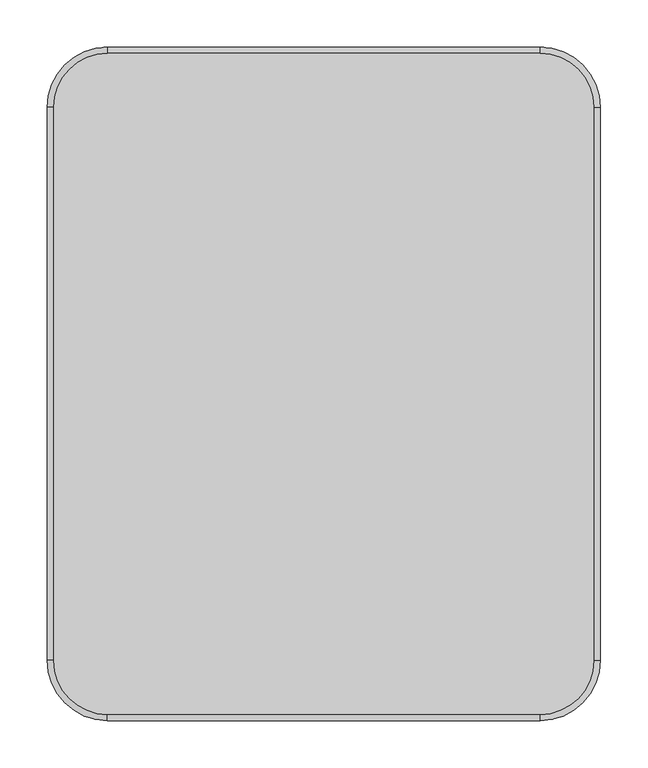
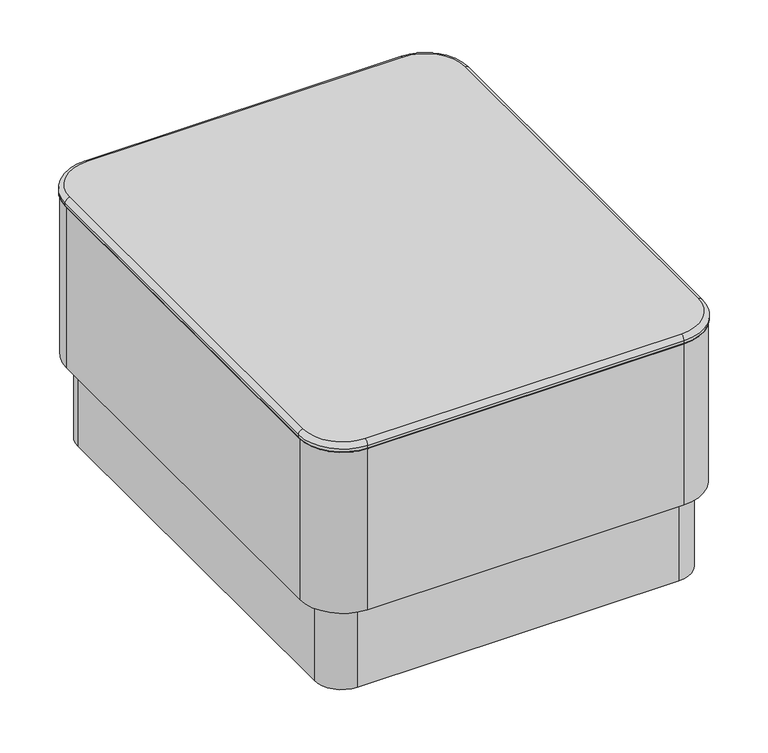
"""IFC4 building model written with IfcOpenShell, lengths in millimetres: furniture geometry, Stance_HC-Rosetta-Rectangular_Table : RM-RT-BHP."""

from ifc_helpers import new_model, si_unit, point, frame, frame_2d, origin, origin_with_axes, place, context, project, spatial, polyline, circle_curve, ellipse_curve, trimmed, segment, composite_curve, outline, extrude, source, transform, mapped, element, save
from ifc_brep_helpers import plane_surface, cylinder_surface, revolved_surface, advanced_brep


def furniture_a6251de5(model_context):
    return source(origin(), model_context, "Body", "SolidModel", [
        advanced_brep(
        [(584.2, -63.5, 387.35), (520.7, 0.0, 387.35), (520.7, -6.35, 393.7), (577.85, -63.5, 393.7), (584.2, -63.5, 383.2974494), (520.7, 0.0, 383.2974494), (582.6125, -63.5, 381.7099494), (520.7, -1.5875, 381.7099494), (577.85, -647.6999758, 393.7), (584.2, -647.6999758, 387.35), (584.2, -647.6999758, 383.2974494), (582.6125, -647.6999758, 381.7099494), (520.7, -704.8499758, 393.7), (520.7, -711.1999758, 387.35), (520.7, -711.1999758, 383.2974494), (520.7, -709.6124758, 381.7099494), (63.5, -704.8499758, 393.7), (63.5, -711.1999758, 387.35), (63.5, -711.1999758, 383.2974494), (63.5, -709.6124758, 381.7099494), (6.35, -647.6999758, 393.7), (0.0, -647.6999758, 387.35), (0.0, -647.6999758, 383.2974494), (1.5875, -647.6999758, 381.7099494), (6.35, -63.5, 393.7), (0.0, -63.5, 387.35), (0.0, -63.5, 383.2974494), (1.5875, -63.5, 381.7099494), (63.5, -6.35, 393.7), (63.5, 0.0, 387.35), (63.5, 0.0, 383.2974494), (63.5, -1.5875, 381.7099494)],
        [
            (0, 1, circle_curve(frame((520.7, -63.5, 387.35), z_axis=(0.0, 0.0, 1.0), x_axis=(0.0, 1.0, 0.0)), 63.5)),
            (1, 2, circle_curve(frame((520.7, -6.35, 387.35), z_axis=(1.0, 0.0, 0.0), x_axis=(0.0, 1.0, 0.0)), 6.35)),
            (2, 3, circle_curve(frame((520.7, -63.5, 393.7), z_axis=(0.0, 0.0, -1.0), x_axis=(0.0, 1.0, 0.0)), 57.15)),
            (3, 0, circle_curve(frame((577.85, -63.5, 387.35), z_axis=(0.0, 1.0, 0.0), x_axis=(1.0, 0.0, 0.0)), 6.35)),
            (0, 4),
            (4, 5, circle_curve(frame((520.7, -63.5, 383.2974494), z_axis=(0.0, 0.0, 1.0), x_axis=(0.0, 1.0, 0.0)), 63.5)),
            (5, 1),
            (4, 6, circle_curve(frame((582.6125, -63.5, 383.2974494), z_axis=(0.0, 1.0, 0.0), x_axis=(1.0, 0.0, 0.0)), 1.5875)),
            (6, 7, circle_curve(frame((520.7, -63.5, 381.7099494), z_axis=(0.0, 0.0, 1.0), x_axis=(0.0, 1.0, 0.0)), 61.9125)),
            (7, 5, circle_curve(frame((520.7, -1.5875, 383.2974494), z_axis=(1.0, 0.0, 0.0), x_axis=(0.0, 1.0, 0.0)), 1.5875)),
            (3, 8),
            (8, 9, circle_curve(frame((577.85, -647.6999758, 387.35), z_axis=(0.0, 1.0, 0.0), x_axis=(1.0, 0.0, 0.0)), 6.35)),
            (9, 0),
            (9, 10),
            (10, 4),
            (10, 11, circle_curve(frame((582.6125, -647.6999758, 383.2974494), z_axis=(0.0, 1.0, 0.0), x_axis=(1.0, 0.0, 0.0)), 1.5875)),
            (11, 6),
            (8, 12, circle_curve(frame((520.7, -647.6999758, 393.7), z_axis=(0.0, 0.0, -1.0), x_axis=(1.0, 0.0, 0.0)), 57.15)),
            (12, 13, circle_curve(frame((520.7, -704.8499758, 387.35), z_axis=(1.0, 0.0, 0.0), x_axis=(0.0, -1.0, 0.0)), 6.35)),
            (13, 9, circle_curve(frame((520.7, -647.6999758, 387.35), z_axis=(0.0, 0.0, 1.0), x_axis=(1.0, 0.0, 0.0)), 63.5)),
            (13, 14),
            (14, 10, circle_curve(frame((520.7, -647.6999758, 383.2974494), z_axis=(0.0, 0.0, 1.0), x_axis=(1.0, 0.0, 0.0)), 63.5)),
            (14, 15, circle_curve(frame((520.7, -709.6124758, 383.2974494), z_axis=(1.0, 0.0, 0.0), x_axis=(0.0, -1.0, 0.0)), 1.5875)),
            (15, 11, circle_curve(frame((520.7, -647.6999758, 381.7099494), z_axis=(0.0, 0.0, 1.0), x_axis=(1.0, 0.0, 0.0)), 61.9125)),
            (12, 16),
            (16, 17, circle_curve(frame((63.5, -704.8499758, 387.35), z_axis=(1.0, 0.0, 0.0), x_axis=(0.0, -1.0, 0.0)), 6.35)),
            (17, 13),
            (17, 18),
            (18, 14),
            (18, 19, circle_curve(frame((63.5, -709.6124758, 383.2974494), z_axis=(1.0, 0.0, 0.0), x_axis=(0.0, -1.0, 0.0)), 1.5875)),
            (19, 15),
            (16, 20, circle_curve(frame((63.5, -647.6999758, 393.7), z_axis=(0.0, 0.0, -1.0), x_axis=(0.0, -1.0, 0.0)), 57.15)),
            (20, 21, circle_curve(frame((6.35, -647.6999758, 387.35), z_axis=(0.0, -1.0, 0.0), x_axis=(-1.0, 0.0, 0.0)), 6.35)),
            (21, 17, circle_curve(frame((63.5, -647.6999758, 387.35), z_axis=(0.0, 0.0, 1.0), x_axis=(0.0, -1.0, 0.0)), 63.5)),
            (21, 22),
            (22, 18, circle_curve(frame((63.5, -647.6999758, 383.2974494), z_axis=(0.0, 0.0, 1.0), x_axis=(0.0, -1.0, 0.0)), 63.5)),
            (22, 23, circle_curve(frame((1.5875, -647.6999758, 383.2974494), z_axis=(0.0, -1.0, 0.0), x_axis=(-1.0, 0.0, 0.0)), 1.5875)),
            (23, 19, circle_curve(frame((63.5, -647.6999758, 381.7099494), z_axis=(0.0, 0.0, 1.0), x_axis=(0.0, -1.0, 0.0)), 61.9125)),
            (20, 24),
            (24, 25, circle_curve(frame((6.35, -63.5, 387.35), z_axis=(0.0, -1.0, 0.0), x_axis=(-1.0, 0.0, 0.0)), 6.35)),
            (25, 21),
            (25, 26),
            (26, 22),
            (26, 27, circle_curve(frame((1.5875, -63.5, 383.2974494), z_axis=(0.0, -1.0, 0.0), x_axis=(-1.0, 0.0, 0.0)), 1.5875)),
            (27, 23),
            (24, 28, circle_curve(frame((63.5, -63.5, 393.7), z_axis=(0.0, 0.0, -1.0), x_axis=(-1.0, 0.0, 0.0)), 57.15)),
            (28, 29, circle_curve(frame((63.5, -6.35, 387.35), z_axis=(-1.0, 0.0, 0.0), x_axis=(0.0, 1.0, 0.0)), 6.35)),
            (29, 25, circle_curve(frame((63.5, -63.5, 387.35), z_axis=(0.0, 0.0, 1.0), x_axis=(-1.0, 0.0, 0.0)), 63.5)),
            (29, 30),
            (30, 26, circle_curve(frame((63.5, -63.5, 383.2974494), z_axis=(0.0, 0.0, 1.0), x_axis=(-1.0, 0.0, 0.0)), 63.5)),
            (30, 31, circle_curve(frame((63.5, -1.5875, 383.2974494), z_axis=(-1.0, 0.0, 0.0), x_axis=(0.0, 1.0, 0.0)), 1.5875)),
            (31, 27, circle_curve(frame((63.5, -63.5, 381.7099494), z_axis=(0.0, 0.0, 1.0), x_axis=(-1.0, 0.0, 0.0)), 61.9125)),
            (2, 28),
            (1, 29),
            (5, 30),
            (7, 31),
        ],
        [
            revolved_surface(trimmed(ellipse_curve(frame((520.7, -6.35, 387.35), z_axis=(-1.0, 0.0, 0.0), x_axis=(0.0, 1.0, 0.0)), 6.35, 6.35), [point((520.7, -6.35, 393.7))], [point((520.7, 0.0, 387.35))], True, "CARTESIAN"), (520.7, -63.5, 618.9648354), (0.0, 0.0, -1.0)),
            cylinder_surface(frame((520.7, -63.5, 618.9648354), z_axis=(0.0, 0.0, -1.0), x_axis=(0.0, 1.0, 0.0)), 63.5),
            revolved_surface(trimmed(ellipse_curve(frame((520.7, -1.5875, 383.2974494), z_axis=(-1.0, 0.0, 0.0), x_axis=(0.0, 1.0, 0.0)), 1.5875, 1.5875), [point((520.7, 0.0, 383.2974494))], [point((520.7, -1.5875, 381.7099494))], True, "CARTESIAN"), (520.7, -63.5, 618.9648354), (0.0, 0.0, -1.0)),
            cylinder_surface(frame((577.85, -63.5, 387.35), z_axis=(0.0, 1.0, 0.0), x_axis=(1.0, 0.0, 0.0)), 6.35),
            plane_surface(frame((584.2, -63.5, 387.35), z_axis=(1.0, 0.0, 0.0), x_axis=(0.0, -1.0, 0.0))),
            cylinder_surface(frame((582.6125, -63.5, 383.2974494), z_axis=(0.0, 1.0, 0.0), x_axis=(1.0, 0.0, 0.0)), 1.5875),
            revolved_surface(trimmed(ellipse_curve(frame((577.85, -647.6999758, 387.35), z_axis=(0.0, 1.0, 0.0), x_axis=(1.0, 0.0, 0.0)), 6.35, 6.35), [point((577.85, -647.6999758, 393.7))], [point((584.2, -647.6999758, 387.35))], True, "CARTESIAN"), (520.7, -647.6999758, 618.9648354), (0.0, 0.0, -1.0)),
            cylinder_surface(frame((520.7, -647.6999758, 618.9648354), z_axis=(0.0, 0.0, -1.0), x_axis=(1.0, 0.0, 0.0)), 63.5),
            revolved_surface(trimmed(ellipse_curve(frame((582.6125, -647.6999758, 383.2974494), z_axis=(0.0, 1.0, 0.0), x_axis=(1.0, 0.0, 0.0)), 1.5875, 1.5875), [point((584.2, -647.6999758, 383.2974494))], [point((582.6125, -647.6999758, 381.7099494))], True, "CARTESIAN"), (520.7, -647.6999758, 618.9648354), (0.0, 0.0, -1.0)),
            cylinder_surface(frame((520.7, -704.8499758, 387.35), z_axis=(1.0, 0.0, 0.0), x_axis=(0.0, -1.0, 0.0)), 6.35),
            plane_surface(frame((520.7, -711.1999758, 387.35), z_axis=(0.0, -1.0, 0.0), x_axis=(-1.0, 0.0, 0.0))),
            cylinder_surface(frame((520.7, -709.6124758, 383.2974494), z_axis=(1.0, 0.0, 0.0), x_axis=(0.0, -1.0, 0.0)), 1.5875),
            revolved_surface(trimmed(ellipse_curve(frame((63.5, -704.8499758, 387.35), z_axis=(1.0, 0.0, 0.0), x_axis=(0.0, -1.0, 0.0)), 6.35, 6.35), [point((63.5, -704.8499758, 393.7))], [point((63.5, -711.1999758, 387.35))], True, "CARTESIAN"), (63.5, -647.6999758, 618.9648354), (0.0, 0.0, -1.0)),
            cylinder_surface(frame((63.5, -647.6999758, 618.9648354), z_axis=(0.0, 0.0, -1.0), x_axis=(0.0, -1.0, 0.0)), 63.5),
            revolved_surface(trimmed(ellipse_curve(frame((63.5, -709.6124758, 383.2974494), z_axis=(1.0, 0.0, 0.0), x_axis=(0.0, -1.0, 0.0)), 1.5875, 1.5875), [point((63.5, -711.1999758, 383.2974494))], [point((63.5, -709.6124758, 381.7099494))], True, "CARTESIAN"), (63.5, -647.6999758, 618.9648354), (0.0, 0.0, -1.0)),
            cylinder_surface(frame((6.35, -647.6999758, 387.35), z_axis=(0.0, -1.0, 0.0), x_axis=(-1.0, 0.0, 0.0)), 6.35),
            plane_surface(frame((0.0, -647.6999758, 387.35), z_axis=(-1.0, 0.0, 0.0), x_axis=(0.0, 1.0, 0.0))),
            cylinder_surface(frame((1.5875, -647.6999758, 383.2974494), z_axis=(0.0, -1.0, 0.0), x_axis=(-1.0, 0.0, 0.0)), 1.5875),
            revolved_surface(trimmed(ellipse_curve(frame((6.35, -63.5, 387.35), z_axis=(0.0, -1.0, 0.0), x_axis=(-1.0, 0.0, 0.0)), 6.35, 6.35), [point((6.35, -63.5, 393.7))], [point((0.0, -63.5, 387.35))], True, "CARTESIAN"), (63.5, -63.5, 618.9648354), (0.0, 0.0, -1.0)),
            cylinder_surface(frame((63.5, -63.5, 618.9648354), z_axis=(0.0, 0.0, -1.0), x_axis=(-1.0, 0.0, 0.0)), 63.5),
            revolved_surface(trimmed(ellipse_curve(frame((1.5875, -63.5, 383.2974494), z_axis=(0.0, -1.0, 0.0), x_axis=(-1.0, 0.0, 0.0)), 1.5875, 1.5875), [point((0.0, -63.5, 383.2974494))], [point((1.5875, -63.5, 381.7099494))], True, "CARTESIAN"), (63.5, -63.5, 618.9648354), (0.0, 0.0, -1.0)),
            plane_surface(frame((63.5, -50.8, 393.7), z_axis=(0.0, 0.0, 1.0), x_axis=(1.0, 0.0, 0.0))),
            cylinder_surface(frame((63.5, -6.35, 387.35), z_axis=(-1.0, 0.0, 0.0), x_axis=(0.0, 1.0, 0.0)), 6.35),
            plane_surface(frame((63.5, 0.0, 387.35), z_axis=(0.0, 1.0, 0.0), x_axis=(1.0, 0.0, 0.0))),
            cylinder_surface(frame((63.5, -1.5875, 383.2974494), z_axis=(-1.0, 0.0, 0.0), x_axis=(0.0, 1.0, 0.0)), 1.5875),
            plane_surface(frame((63.5, -1.5875, 381.7099494), z_axis=(0.0, 0.0, -1.0), x_axis=(1.0, 0.0, 0.0))),
        ],
        [
            (0, [[1, 2, 3, 4]]),
            (1, [[-1, 5, 6, 7]]),
            (2, [[-6, 8, 9, 10]]),
            (3, [[-4, 11, 12, 13]]),
            (4, [[-5, -13, 14, 15]]),
            (5, [[-8, -15, 16, 17]]),
            (6, [[-12, 18, 19, 20]]),
            (7, [[-14, -20, 21, 22]]),
            (8, [[-16, -22, 23, 24]]),
            (9, [[-19, 25, 26, 27]]),
            (10, [[-21, -27, 28, 29]]),
            (11, [[-23, -29, 30, 31]]),
            (12, [[-26, 32, 33, 34]]),
            (13, [[-28, -34, 35, 36]]),
            (14, [[-30, -36, 37, 38]]),
            (15, [[-33, 39, 40, 41]]),
            (16, [[-35, -41, 42, 43]]),
            (17, [[-37, -43, 44, 45]]),
            (18, [[-40, 46, 47, 48]]),
            (19, [[-42, -48, 49, 50]]),
            (20, [[-44, -50, 51, 52]]),
            (21, [[-3, 53, -46, -39, -32, -25, -18, -11]]),
            (22, [[-2, 54, -47, -53]]),
            (23, [[-7, 55, -49, -54]]),
            (24, [[-10, 56, -51, -55]]),
            (25, [[-9, -17, -24, -31, -38, -45, -52, -56]]),
        ],
    ),
        extrude(outline(composite_curve([segment(trimmed(circle_curve(frame_2d((520.7, -63.5)), 61.9125), [point((520.7, -1.5875))], [point((582.6125, -63.5))], False, "CARTESIAN"), True, "CONTINUOUS"), segment(polyline([(582.6125, -63.5), (582.6125, -647.6999758)]), True, "CONTINUOUS"), segment(trimmed(circle_curve(frame_2d((520.7, -647.6999758)), 61.9125), [point((582.6125, -647.6999758))], [point((520.7, -709.6124758))], False, "CARTESIAN"), True, "CONTINUOUS"), segment(polyline([(520.7, -709.6124758), (63.5, -709.6124758)]), True, "CONTINUOUS"), segment(trimmed(circle_curve(frame_2d((63.5, -647.6999758)), 61.9125), [point((63.5, -709.6124758))], [point((1.5875, -647.6999758))], False, "CARTESIAN"), True, "CONTINUOUS"), segment(polyline([(1.5875, -647.6999758), (1.5875, -63.5)]), True, "CONTINUOUS"), segment(trimmed(circle_curve(frame_2d((63.5, -63.5)), 61.9125), [point((1.5875, -63.5))], [point((63.5, -1.5875))], False, "CARTESIAN"), True, "CONTINUOUS"), segment(polyline([(63.5, -1.5875), (520.7, -1.5875)]), True, "CONTINUOUS")], self_intersect=False)), frame((0.0, 0.0, 134.88162), z_axis=(0.0, 0.0, 1.0), x_axis=(1.0, 0.0, 0.0)), (0.0, 0.0, 1.0), 246.8283294),
        extrude(outline(composite_curve([segment(trimmed(circle_curve(frame_2d((54.0078674, -657.1680567)), 11.90625), [point((54.0078674, -669.0743067))], [point((54.0078674, -645.2618067))], False, "CARTESIAN"), True, "CONTINUOUS"), segment(trimmed(circle_curve(frame_2d((54.0078674, -657.1680567)), 11.90625), [point((54.0078674, -645.2618067))], [point((54.0078674, -669.0743067))], False, "CARTESIAN"), True, "CONTINUOUS")], self_intersect=False)), origin_with_axes(), (0.0, 0.0, 1.0), 6.3627),
        extrude(outline(composite_curve([segment(trimmed(circle_curve(frame_2d((530.1921326, -657.1680567)), 11.90625), [point((530.1921326, -669.0743067))], [point((530.1921326, -645.2618067))], False, "CARTESIAN"), True, "CONTINUOUS"), segment(trimmed(circle_curve(frame_2d((530.1921326, -657.1680567)), 11.90625), [point((530.1921326, -645.2618067))], [point((530.1921326, -669.0743067))], False, "CARTESIAN"), True, "CONTINUOUS")], self_intersect=False)), origin_with_axes(), (0.0, 0.0, 1.0), 6.3627),
        extrude(outline(composite_curve([segment(trimmed(circle_curve(frame_2d((54.0078674, -54.0319433)), 11.90625), [point((54.0078674, -65.9381933))], [point((54.0078674, -42.1256933))], False, "CARTESIAN"), True, "CONTINUOUS"), segment(trimmed(circle_curve(frame_2d((54.0078674, -54.0319433)), 11.90625), [point((54.0078674, -42.1256933))], [point((54.0078674, -65.9381933))], False, "CARTESIAN"), True, "CONTINUOUS")], self_intersect=False)), origin_with_axes(), (0.0, 0.0, 1.0), 6.3627),
        extrude(outline(composite_curve([segment(trimmed(circle_curve(frame_2d((530.1921326, -54.0319433)), 11.90625), [point((530.1921326, -65.9381933))], [point((530.1921326, -42.1256933))], False, "CARTESIAN"), True, "CONTINUOUS"), segment(trimmed(circle_curve(frame_2d((530.1921326, -54.0319433)), 11.90625), [point((530.1921326, -42.1256933))], [point((530.1921326, -65.9381933))], False, "CARTESIAN"), True, "CONTINUOUS")], self_intersect=False)), origin_with_axes(), (0.0, 0.0, 1.0), 6.3627),
        extrude(outline(composite_curve([segment(trimmed(circle_curve(frame_2d((524.2875, -59.9125)), 39.6875), [point((524.2875, -20.225))], [point((563.975, -59.9125))], False, "CARTESIAN"), True, "CONTINUOUS"), segment(polyline([(563.975, -59.9125), (563.975, -651.2875)]), True, "CONTINUOUS"), segment(trimmed(circle_curve(frame_2d((524.2875, -651.2875)), 39.6875), [point((563.975, -651.2875))], [point((524.2875, -690.975))], False, "CARTESIAN"), True, "CONTINUOUS"), segment(polyline([(524.2875, -690.975), (59.9125, -690.975)]), True, "CONTINUOUS"), segment(trimmed(circle_curve(frame_2d((59.9125, -651.2875)), 39.6875), [point((59.9125, -690.975))], [point((20.225, -651.2875))], False, "CARTESIAN"), True, "CONTINUOUS"), segment(polyline([(20.225, -651.2875), (20.225, -59.9125)]), True, "CONTINUOUS"), segment(trimmed(circle_curve(frame_2d((59.9125, -59.9125)), 39.6875), [point((20.225, -59.9125))], [point((59.9125, -20.225))], False, "CARTESIAN"), True, "CONTINUOUS"), segment(polyline([(59.9125, -20.225), (524.2875, -20.225)]), True, "CONTINUOUS")], self_intersect=False)), frame((0.0, 0.0, 6.3627), z_axis=(0.0, 0.0, 1.0), x_axis=(1.0, 0.0, 0.0)), (0.0, 0.0, 1.0), 128.51892),
    ])


if __name__ == "__main__":
    model = new_model("IFC4")
    model_context = context("Model", 3, world=origin())
    ifc_project = project(units=[si_unit("LENGTHUNIT", "METRE", prefix="MILLI")], contexts=[model_context])
    site = spatial("IfcSite", under=ifc_project)
    building = spatial("IfcBuilding", under=site)
    placement = place(None, origin())
    furniture_shape = furniture_a6251de5(model_context)
    element("IfcFurniture", 1, ObjectType="Stance_HC-Rosetta-Rectangular_Table : RM-RT-BHP", at=placement, inside=building, context=model_context, shape_type="MappedRepresentation", body=[
        mapped(furniture_shape, transform((0.0, 0.0, 0.0), x_axis=(1.0, 0.0, 0.0), y_axis=(0.0, 1.0, 0.0), z_axis=(0.0, 0.0, 1.0))),
    ])
    save(model, "model.ifc")
